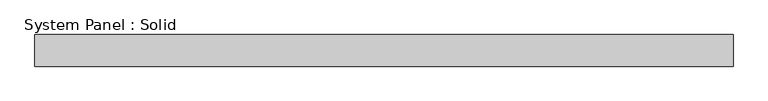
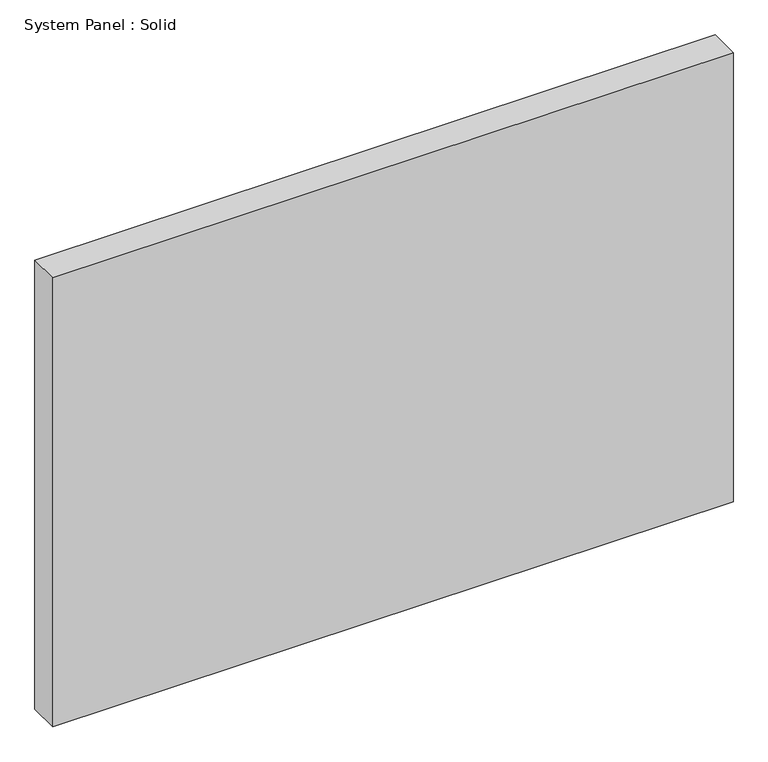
"""IFC4 building model written with IfcOpenShell, lengths in millimetres: plate geometry, System Panel : Solid."""

from ifc_helpers import new_model, si_unit, origin, origin_with_axes, place, context, project, spatial, polyline, outline, extrude, source, transform, mapped, element, save


def system_panel_solid_c5c66014(model_context):
    return source(origin(), model_context, "Body", "SweptSolid", [
        extrude(outline(polyline([(663.0142443, -49.5), (-663.0142443, -49.5), (-663.0142443, 10.5), (663.0142443, 10.5), (663.0142443, -49.5)])), origin_with_axes(), (0.0, 0.0, 1.0), 925.0),
    ])


if __name__ == "__main__":
    model = new_model("IFC4")
    model_context = context("Model", 3, world=origin())
    ifc_project = project(units=[si_unit("LENGTHUNIT", "METRE", prefix="MILLI")], contexts=[model_context])
    site = spatial("IfcSite", under=ifc_project)
    building = spatial("IfcBuilding", under=site)
    placement = place(None, origin())
    system_panel_solid_shape = system_panel_solid_c5c66014(model_context)
    element("IfcPlate", 1, ObjectType="System Panel : Solid", at=placement, inside=building, context=model_context, shape_type="MappedRepresentation", body=[
        mapped(system_panel_solid_shape, transform((0.0, 0.0, 0.0), x_axis=(1.0, 0.0, 0.0), y_axis=(0.0, 1.0, 0.0), z_axis=(0.0, 0.0, 1.0))),
    ])
    save(model, "model.ifc")
